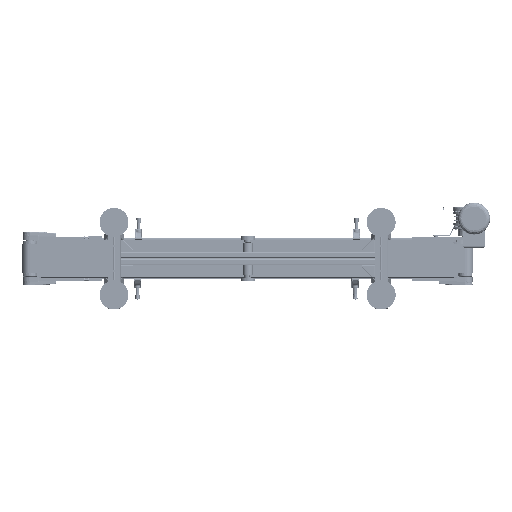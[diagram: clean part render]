
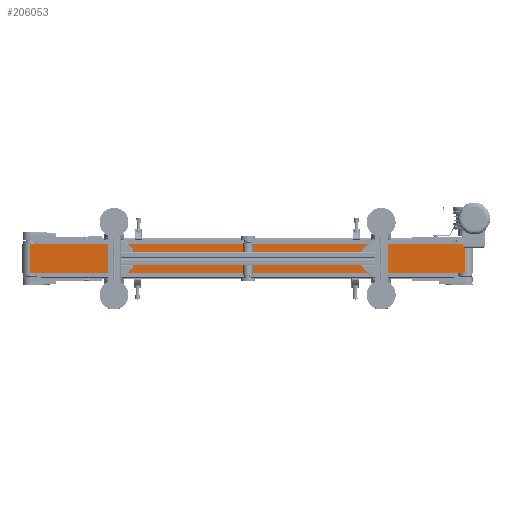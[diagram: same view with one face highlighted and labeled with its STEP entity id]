
A CAD part, front view. The second image highlights one B-rep face of the part: STEP entity #206053.
In plain terms, the highlighted planar face has unit normal (0, -1, 0).
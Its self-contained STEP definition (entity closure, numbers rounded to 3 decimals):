
#6260 = DIRECTION ( 'NONE',  ( 0., 1., 0. ) ) ;
#8348 = DIRECTION ( 'NONE',  ( 1., 0., 0. ) ) ;
#11467 = EDGE_CURVE ( 'NONE', #19379, #11568, #102858, .T. ) ;
#11568 = VERTEX_POINT ( 'NONE', #246166 ) ;
#15842 = AXIS2_PLACEMENT_3D ( 'NONE', #237862, #6260, #198833 ) ;
#18950 = EDGE_CURVE ( 'NONE', #240174, #85287, #86847, .T. ) ;
#19379 = VERTEX_POINT ( 'NONE', #185909 ) ;
#47179 = VECTOR ( 'NONE', #179599, 1000. ) ;
#65442 = FACE_OUTER_BOUND ( 'NONE', #191584, .T. ) ;
#76560 = VECTOR ( 'NONE', #8348, 1000. ) ;
#83978 = CARTESIAN_POINT ( 'NONE',  ( -750., -27., 50. ) ) ;
#85287 = VERTEX_POINT ( 'NONE', #109105 ) ;
#86847 = LINE ( 'NONE', #237950, #170284 ) ;
#89129 = LINE ( 'NONE', #111697, #199796 ) ;
#102724 = ORIENTED_EDGE ( 'NONE', *, *, #11467, .T. ) ;
#102858 = LINE ( 'NONE', #83978, #47179 ) ;
#109105 = CARTESIAN_POINT ( 'NONE',  ( 750., -27., -50. ) ) ;
#111697 = CARTESIAN_POINT ( 'NONE',  ( -750., -27., -50. ) ) ;
#124169 = LINE ( 'NONE', #141822, #76560 ) ;
#129907 = CARTESIAN_POINT ( 'NONE',  ( 750., -27., 50. ) ) ;
#141822 = CARTESIAN_POINT ( 'NONE',  ( -750., -27., 50. ) ) ;
#157365 = PLANE ( 'NONE',  #15842 ) ;
#168797 = ORIENTED_EDGE ( 'NONE', *, *, #193631, .F. ) ;
#170284 = VECTOR ( 'NONE', #202619, 1000. ) ;
#174418 = ORIENTED_EDGE ( 'NONE', *, *, #18950, .F. ) ;
#179599 = DIRECTION ( 'NONE',  ( 0., 0., -1. ) ) ;
#185909 = CARTESIAN_POINT ( 'NONE',  ( -750., -27., 50. ) ) ;
#189699 = EDGE_CURVE ( 'NONE', #11568, #85287, #89129, .T. ) ;
#191584 = EDGE_LOOP ( 'NONE', ( #213830, #174418, #168797, #102724 ) ) ;
#193631 = EDGE_CURVE ( 'NONE', #19379, #240174, #124169, .T. ) ;
#198833 = DIRECTION ( 'NONE',  ( 0., 0., 1. ) ) ;
#199796 = VECTOR ( 'NONE', #203641, 1000. ) ;
#202619 = DIRECTION ( 'NONE',  ( 0., 0., -1. ) ) ;
#203641 = DIRECTION ( 'NONE',  ( 1., 0., 0. ) ) ;
#206053 = ADVANCED_FACE ( 'NONE', ( #65442 ), #157365, .F. ) ;
#213830 = ORIENTED_EDGE ( 'NONE', *, *, #189699, .T. ) ;
#237862 = CARTESIAN_POINT ( 'NONE',  ( -750., -27., 50. ) ) ;
#237950 = CARTESIAN_POINT ( 'NONE',  ( 750., -27., 50. ) ) ;
#240174 = VERTEX_POINT ( 'NONE', #129907 ) ;
#246166 = CARTESIAN_POINT ( 'NONE',  ( -750., -27., -50. ) ) ;
